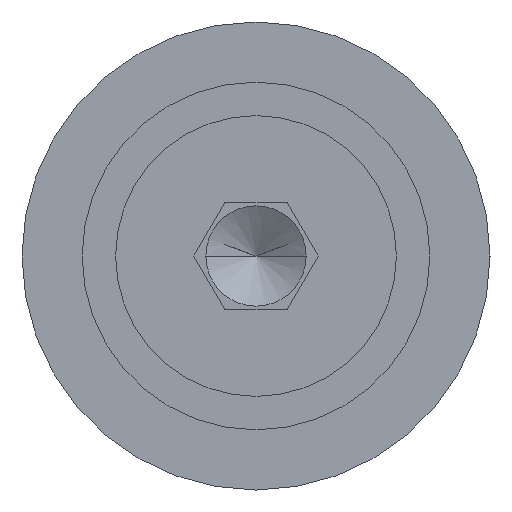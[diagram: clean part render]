
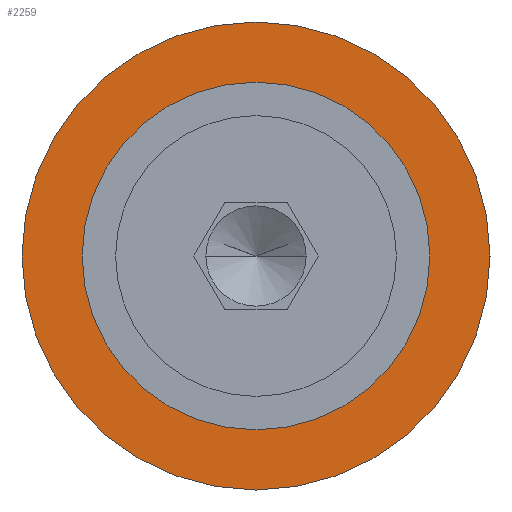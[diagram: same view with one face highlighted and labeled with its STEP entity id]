
A CAD part, left-side view. The second image highlights one B-rep face of the part: STEP entity #2259.
In plain terms, the highlighted planar face has unit normal (-1, 0, 0).
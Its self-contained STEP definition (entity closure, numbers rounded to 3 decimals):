
#50 = CARTESIAN_POINT ( 'NONE',  ( -20., 0., 12. ) ) ;
#86 = PLANE ( 'NONE',  #595 ) ;
#134 = DIRECTION ( 'NONE',  ( 0., 0., -1. ) ) ;
#150 = EDGE_LOOP ( 'NONE', ( #991, #1268 ) ) ;
#201 = DIRECTION ( 'NONE',  ( 0., 0., 1. ) ) ;
#229 = AXIS2_PLACEMENT_3D ( 'NONE', #2096, #311, #1023 ) ;
#236 = CARTESIAN_POINT ( 'NONE',  ( -20., 0., -12. ) ) ;
#311 = DIRECTION ( 'NONE',  ( -1., 0., 0. ) ) ;
#458 = ORIENTED_EDGE ( 'NONE', *, *, #942, .T. ) ;
#550 = EDGE_CURVE ( 'NONE', #874, #1939, #2084, .T. ) ;
#595 = AXIS2_PLACEMENT_3D ( 'NONE', #1604, #680, #134 ) ;
#680 = DIRECTION ( 'NONE',  ( 1., 0., 0. ) ) ;
#874 = VERTEX_POINT ( 'NONE', #2121 ) ;
#878 = CARTESIAN_POINT ( 'NONE',  ( -20., 0., 0. ) ) ;
#942 = EDGE_CURVE ( 'NONE', #1939, #874, #1168, .T. ) ;
#991 = ORIENTED_EDGE ( 'NONE', *, *, #2288, .F. ) ;
#1023 = DIRECTION ( 'NONE',  ( 0., 0., 1. ) ) ;
#1036 = EDGE_LOOP ( 'NONE', ( #458, #1911 ) ) ;
#1046 = CIRCLE ( 'NONE', #1707, 12. ) ;
#1168 = CIRCLE ( 'NONE', #1477, 17.5 ) ;
#1229 = FACE_BOUND ( 'NONE', #150, .T. ) ;
#1230 = VERTEX_POINT ( 'NONE', #50 ) ;
#1268 = ORIENTED_EDGE ( 'NONE', *, *, #1787, .F. ) ;
#1365 = FACE_OUTER_BOUND ( 'NONE', #1036, .T. ) ;
#1443 = DIRECTION ( 'NONE',  ( -1., 0., 0. ) ) ;
#1477 = AXIS2_PLACEMENT_3D ( 'NONE', #878, #1443, #2170 ) ;
#1540 = DIRECTION ( 'NONE',  ( 0., 0., 1. ) ) ;
#1604 = CARTESIAN_POINT ( 'NONE',  ( -20., 17.5, 0. ) ) ;
#1685 = DIRECTION ( 'NONE',  ( -1., 0., 0. ) ) ;
#1707 = AXIS2_PLACEMENT_3D ( 'NONE', #2229, #1836, #201 ) ;
#1787 = EDGE_CURVE ( 'NONE', #1806, #1230, #1046, .T. ) ;
#1806 = VERTEX_POINT ( 'NONE', #236 ) ;
#1836 = DIRECTION ( 'NONE',  ( -1., 0., 0. ) ) ;
#1854 = AXIS2_PLACEMENT_3D ( 'NONE', #2092, #1685, #1540 ) ;
#1911 = ORIENTED_EDGE ( 'NONE', *, *, #550, .T. ) ;
#1939 = VERTEX_POINT ( 'NONE', #2089 ) ;
#1991 = CIRCLE ( 'NONE', #229, 12. ) ;
#2084 = CIRCLE ( 'NONE', #1854, 17.5 ) ;
#2089 = CARTESIAN_POINT ( 'NONE',  ( -20., 0., 17.5 ) ) ;
#2092 = CARTESIAN_POINT ( 'NONE',  ( -20., 0., 0. ) ) ;
#2096 = CARTESIAN_POINT ( 'NONE',  ( -20., 0., 0. ) ) ;
#2121 = CARTESIAN_POINT ( 'NONE',  ( -20., 0., -17.5 ) ) ;
#2170 = DIRECTION ( 'NONE',  ( 0., 0., 1. ) ) ;
#2229 = CARTESIAN_POINT ( 'NONE',  ( -20., 0., 0. ) ) ;
#2259 = ADVANCED_FACE ( 'NONE', ( #1229, #1365 ), #86, .F. ) ;
#2288 = EDGE_CURVE ( 'NONE', #1230, #1806, #1991, .T. ) ;
